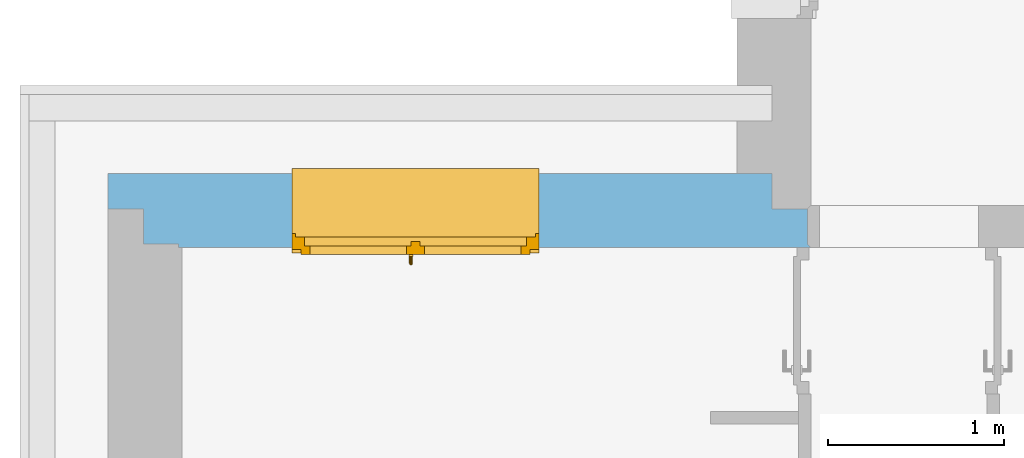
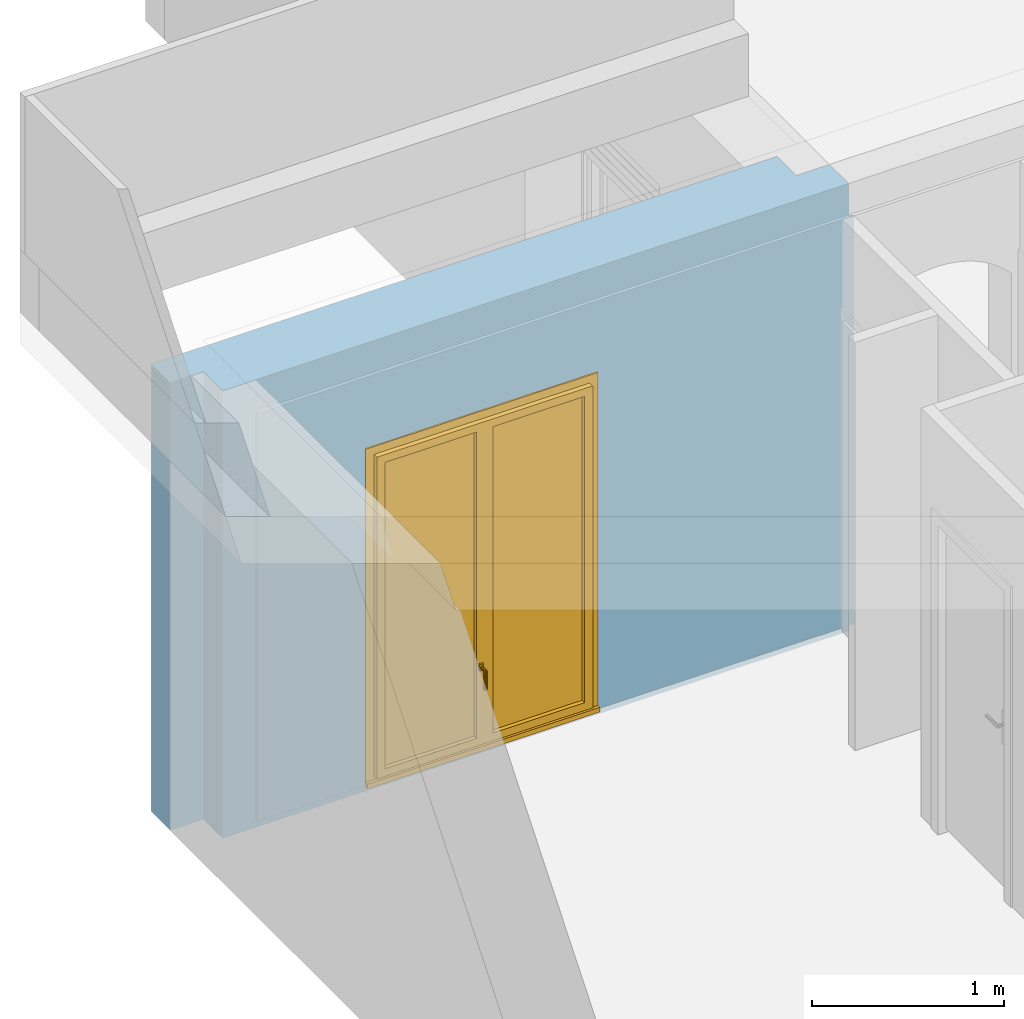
# One storey, part 8 of 16: 1 door, 1 opening, plus 1 element that does not belong to this part.
"""IFC4 building model written with IfcOpenShell, lengths in metres."""

from ifc_helpers import new_model, entity, si_unit, converted_unit, frame, origin, origin_with_axes, place, context, subcontext, project, spatial, polyline, outline, extrude, clip, bounded_halfspace, closed_shell, open_shell, surface_model, source, transform, mapped, material, layer, layer_set, layer_usage, type_object, element, fill, save


model = new_model("IFC4")

# Units and contexts
model_context = context("Model", 3, precision=1e-05, world=origin())
body_context = subcontext(model_context, "Body", "Model", "MODEL_VIEW")
ifc_project = project(units=[si_unit("LENGTHUNIT", "METRE"), si_unit("AREAUNIT", "SQUARE_METRE"), si_unit("VOLUMEUNIT", "CUBIC_METRE"), si_unit("MASSUNIT", "GRAM", prefix="KILO"), converted_unit("PLANEANGLEUNIT", "DEGREE", entity("IfcPlaneAngleMeasure", 0.0174532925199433), si_unit("PLANEANGLEUNIT", "RADIAN"), dimensions=[0, 0, 0, 0, 0, 0, 0])], contexts=[model_context])

# Building, storey
building_placement = place(None, origin())
building = spatial("IfcBuilding", under=ifc_project, at=building_placement, Name="Projet de Construction", CompositionType="ELEMENT")
storey_placement = place(building_placement, frame((0.0, 0.0, -0.05)))
storey = spatial("IfcBuildingStorey", under=building, at=storey_placement, Name="RDC", CompositionType="ELEMENT", Elevation=-0.05)

# Wall, opening, door
ifc_material_1 = material()
ifc_layer_1 = layer(ifc_material_1, 0.200000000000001)
ifc_material_2 = material()
ifc_layer_2 = layer(ifc_material_2, 0.2)
ifc_material_3 = material()
ifc_layer_3 = layer(ifc_material_3, 0.0199999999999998)
ifc_layer_set = layer_set([ifc_layer_1, ifc_layer_2, ifc_layer_3])
ifc_layer_usage = layer_usage(ifc_layer_set, "AXIS2", "POSITIVE", 0.0)
wall_placement = place(storey_placement, frame((-7.0859375, 1.89979166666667, 0.0), z_axis=(0.0, 0.0, 1.0), x_axis=(-1.0, 1.20622639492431e-16, 0.0)))
wall = element("IfcWall", 1, at=wall_placement, inside=storey, material=ifc_layer_usage, context=body_context, shape_type="Clipping", body=[
    clip(clip(extrude(outline(polyline([(-3.97, -0.220000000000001), (-3.77, -0.22), (-3.77, -0.420000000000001), (5.06615085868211e-17, -0.420000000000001), (2.65369806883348e-17, -0.22), (-0.2, -0.220000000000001), (-0.2, -0.0200000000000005), (-0.4, -0.0200000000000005), (-0.4, -5.02996406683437e-16), (-3.99, -4.81284331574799e-16), (-3.97, -0.0200000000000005), (-3.97, -0.220000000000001)])), frame((3.77, 0.420000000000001, 0.0), z_axis=(0.0, 0.0, 1.0), x_axis=(1.0, 0.0, 0.0)), (0.0, 0.0, 1.0), 2.85), bounded_halfspace(frame((1.58, 0.410000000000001, 0.05), z_axis=(0.0, 0.0, 1.0), x_axis=(0.707106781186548, -0.707106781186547, 0.0)), True, origin_with_axes(), polyline([(-0.22, 0.420000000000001), (-0.2, 0.400000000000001), (3.37, 0.400000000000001), (3.37, 0.420000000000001), (-0.22, 0.420000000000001)]))), bounded_halfspace(frame((1.58, 0.410000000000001, 2.65), z_axis=(0.0, 0.0, -1.0), x_axis=(1.0, -6.75757083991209e-18, 0.0)), True, origin_with_axes(), polyline([(-0.2, 0.400000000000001), (3.37, 0.400000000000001), (3.37, 0.420000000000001), (-0.22, 0.420000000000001), (-0.2, 0.400000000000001)]))),
])
opening_placement = place(wall_placement, frame((2.725, 0.200000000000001, 0.05), z_axis=(0.0, -1.0, 0.0), x_axis=(0.0, 0.0, 1.0)))
opening = element("IfcOpeningStandardCase", 2, at=opening_placement, cuts=wall, Name="Baie de porte", PredefinedType="OPENING", context=body_context, shape_type="SweptSolid", body=[
    extrude(outline(polyline([(0.0, 1.4), (2.15, 1.4), (2.15, 0.0), (0.0, 0.0), (0.0, 1.4)])), origin_with_axes(), (0.0, 0.0, 1.0), 0.200000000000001),
    extrude(outline(polyline([(0.0, 1.4), (2.15, 1.4), (2.15, 0.0), (0.0, 0.0), (0.0, 1.4)])), frame((0.0, 3.24819536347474e-17, -0.2), z_axis=(0.0, 0.0, 1.0), x_axis=(1.0, 0.0, 0.0)), (0.0, 0.0, 1.0), 0.2),
    extrude(outline(polyline([(0.0, 1.4), (2.15, 1.4), (2.15, 0.0), (0.0, 0.0), (0.0, 1.4)])), frame((0.0, 3.57301489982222e-17, -0.22), z_axis=(0.0, 0.0, 1.0), x_axis=(1.0, 0.0, 0.0)), (0.0, 0.0, 1.0), 0.02),
])
ifc_material_4 = material()
door_type = type_object("IfcDoorType", Name="3 vantaux blanc, monté", OperationType="NOTDEFINED", ParameterTakesPrecedence=False, PredefinedType="DOOR")
shared_shape = source(origin_with_axes(), body_context, "Body", "SurfaceModel", [
    surface_model("IfcShellBasedSurfaceModel", [(0.0, 0.0199999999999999, 0.03), (0.0, 0.39, 0.03), (-3.67394039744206e-18, 0.39, 0.06), (-2.44929359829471e-18, 0.0, 0.05), (3.67394039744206e-18, 0.0, 0.0), (3.67394039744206e-18, 0.0199999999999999, 0.0), (1.4, 0.39, 0.0300000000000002), (1.4, 0.0199999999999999, 0.0300000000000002), (1.4, 0.0199999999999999, 1.70530256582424e-16), (1.4, 0.0, 1.70530256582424e-16), (1.4, 0.0, 0.0500000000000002), (1.4, 0.39, 0.0600000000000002)], [closed_shell([[[0, 1, 2, 3, 4, 5]], [[6, 7, 8, 9, 10, 11]], [[1, 0, 7, 6]], [[2, 1, 6, 11]], [[3, 2, 11, 10]], [[4, 3, 10, 9]], [[5, 4, 9, 8]], [[0, 5, 8, 7]]], orient=[[False], [False], [False], [False], [False], [False], [False], [False]])]),
    surface_model("IfcShellBasedSurfaceModel", [(0.0, 0.48, 0.03), (-3.67394039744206e-18, 0.48, 0.06), (-3.67394039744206e-18, 0.43, 0.06), (0.0, 0.43, 0.03), (1.4, 0.43, 0.0300000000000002), (1.4, 0.43, 0.0600000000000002), (1.4, 0.48, 0.0600000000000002), (1.4, 0.48, 0.0300000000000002)], [closed_shell([[[0, 1, 2, 3]], [[4, 5, 6, 7]], [[3, 4, 7, 0]], [[2, 5, 4, 3]], [[1, 6, 5, 2]], [[0, 7, 6, 1]]], orient=[[False], [False], [False], [False], [False], [False]])]),
    surface_model("IfcShellBasedSurfaceModel", [(0.0, 0.39, 2.18), (0.0, 0.39, 1.98), (1.4, 0.39, 1.98), (1.4, 0.39, 2.18), (0.0, 0.19, 1.98), (0.0, 0.19, 2.18), (1.4, 0.19, 2.18), (1.4, 0.19, 1.98)], [closed_shell([[[0, 1, 2, 3]], [[4, 5, 6, 7]], [[1, 0, 5, 4]], [[2, 1, 4, 7]], [[3, 2, 7, 6]], [[0, 3, 6, 5]]], orient=[[False], [False], [False], [False], [False], [False]])]),
    surface_model("IfcShellBasedSurfaceModel", [(0.0, 0.39, 1.98), (0.0, 0.39, 0.03), (0.02, 0.39, 0.03), (0.02, 0.39, 1.98), (0.0, 0.37, 0.03), (0.0, 0.37, 1.98), (0.02, 0.37, 1.98), (0.02, 0.37, 0.03)], [closed_shell([[[0, 1, 2, 3]], [[4, 5, 6, 7]], [[1, 0, 5, 4]], [[2, 1, 4, 7]], [[3, 2, 7, 6]], [[0, 3, 6, 5]]], orient=[[False], [False], [False], [False], [False], [False]])]),
    surface_model("IfcShellBasedSurfaceModel", [(1.38, 0.39, 1.98), (1.38, 0.39, 0.03), (1.4, 0.39, 0.03), (1.4, 0.39, 1.98), (1.38, 0.37, 0.03), (1.38, 0.37, 1.98), (1.4, 0.37, 1.98), (1.4, 0.37, 0.03)], [closed_shell([[[0, 1, 2, 3]], [[4, 5, 6, 7]], [[1, 0, 5, 4]], [[2, 1, 4, 7]], [[3, 2, 7, 6]], [[0, 3, 6, 5]]], orient=[[False], [False], [False], [False], [False], [False]])]),
    surface_model("IfcShellBasedSurfaceModel", [(0.01, 0.385, 1.975), (0.01, 0.385, 1.925), (1.39, 0.385, 1.925), (1.39, 0.385, 1.975), (0.01, 0.375, 1.925), (0.01, 0.375, 1.975), (1.39, 0.375, 1.975), (1.39, 0.375, 1.925)], [closed_shell([[[0, 1, 2, 3]], [[4, 5, 6, 7]], [[1, 0, 5, 4]], [[2, 1, 4, 7]], [[3, 2, 7, 6]], [[0, 3, 6, 5]]], orient=[[False], [False], [False], [False], [False], [False]])]),
    surface_model("IfcShellBasedSurfaceModel", [(0.01, 0.385, 1.92), (0.01, 0.385, 1.87), (1.39, 0.385, 1.87), (1.39, 0.385, 1.92), (0.01, 0.375, 1.87), (0.01, 0.375, 1.92), (1.39, 0.375, 1.92), (1.39, 0.375, 1.87)], [closed_shell([[[0, 1, 2, 3]], [[4, 5, 6, 7]], [[1, 0, 5, 4]], [[2, 1, 4, 7]], [[3, 2, 7, 6]], [[0, 3, 6, 5]]], orient=[[False], [False], [False], [False], [False], [False]])]),
    surface_model("IfcShellBasedSurfaceModel", [(0.01, 0.385, 1.865), (0.01, 0.385, 1.815), (1.39, 0.385, 1.815), (1.39, 0.385, 1.865), (0.01, 0.375, 1.815), (0.01, 0.375, 1.865), (1.39, 0.375, 1.865), (1.39, 0.375, 1.815)], [closed_shell([[[0, 1, 2, 3]], [[4, 5, 6, 7]], [[1, 0, 5, 4]], [[2, 1, 4, 7]], [[3, 2, 7, 6]], [[0, 3, 6, 5]]], orient=[[False], [False], [False], [False], [False], [False]])]),
    surface_model("IfcShellBasedSurfaceModel", [(0.01, 0.385, 1.81), (0.01, 0.385, 1.76), (1.39, 0.385, 1.76), (1.39, 0.385, 1.81), (0.01, 0.375, 1.76), (0.01, 0.375, 1.81), (1.39, 0.375, 1.81), (1.39, 0.375, 1.76)], [closed_shell([[[0, 1, 2, 3]], [[4, 5, 6, 7]], [[1, 0, 5, 4]], [[2, 1, 4, 7]], [[3, 2, 7, 6]], [[0, 3, 6, 5]]], orient=[[False], [False], [False], [False], [False], [False]])]),
    surface_model("IfcShellBasedSurfaceModel", [(0.01, 0.385, 1.755), (0.01, 0.385, 1.705), (1.39, 0.385, 1.705), (1.39, 0.385, 1.755), (0.01, 0.375, 1.705), (0.01, 0.375, 1.755), (1.39, 0.375, 1.755), (1.39, 0.375, 1.705)], [closed_shell([[[0, 1, 2, 3]], [[4, 5, 6, 7]], [[1, 0, 5, 4]], [[2, 1, 4, 7]], [[3, 2, 7, 6]], [[0, 3, 6, 5]]], orient=[[False], [False], [False], [False], [False], [False]])]),
    surface_model("IfcShellBasedSurfaceModel", [(0.01, 0.385, 1.7), (0.01, 0.385, 1.65), (1.39, 0.385, 1.65), (1.39, 0.385, 1.7), (0.01, 0.375, 1.65), (0.01, 0.375, 1.7), (1.39, 0.375, 1.7), (1.39, 0.375, 1.65)], [closed_shell([[[0, 1, 2, 3]], [[4, 5, 6, 7]], [[1, 0, 5, 4]], [[2, 1, 4, 7]], [[3, 2, 7, 6]], [[0, 3, 6, 5]]], orient=[[False], [False], [False], [False], [False], [False]])]),
    surface_model("IfcShellBasedSurfaceModel", [(0.01, 0.385, 1.645), (0.01, 0.385, 1.595), (1.39, 0.385, 1.595), (1.39, 0.385, 1.645), (0.01, 0.375, 1.595), (0.01, 0.375, 1.645), (1.39, 0.375, 1.645), (1.39, 0.375, 1.595)], [closed_shell([[[0, 1, 2, 3]], [[4, 5, 6, 7]], [[1, 0, 5, 4]], [[2, 1, 4, 7]], [[3, 2, 7, 6]], [[0, 3, 6, 5]]], orient=[[False], [False], [False], [False], [False], [False]])]),
    surface_model("IfcShellBasedSurfaceModel", [(0.01, 0.385, 1.59), (0.01, 0.385, 1.54), (1.39, 0.385, 1.54), (1.39, 0.385, 1.59), (0.01, 0.375, 1.54), (0.01, 0.375, 1.59), (1.39, 0.375, 1.59), (1.39, 0.375, 1.54)], [closed_shell([[[0, 1, 2, 3]], [[4, 5, 6, 7]], [[1, 0, 5, 4]], [[2, 1, 4, 7]], [[3, 2, 7, 6]], [[0, 3, 6, 5]]], orient=[[False], [False], [False], [False], [False], [False]])]),
    surface_model("IfcShellBasedSurfaceModel", [(0.01, 0.385, 1.535), (0.01, 0.385, 1.485), (1.39, 0.385, 1.485), (1.39, 0.385, 1.535), (0.01, 0.375, 1.485), (0.01, 0.375, 1.535), (1.39, 0.375, 1.535), (1.39, 0.375, 1.485)], [closed_shell([[[0, 1, 2, 3]], [[4, 5, 6, 7]], [[1, 0, 5, 4]], [[2, 1, 4, 7]], [[3, 2, 7, 6]], [[0, 3, 6, 5]]], orient=[[False], [False], [False], [False], [False], [False]])]),
    surface_model("IfcShellBasedSurfaceModel", [(0.01, 0.385, 1.48), (0.01, 0.385, 1.43), (1.39, 0.385, 1.43), (1.39, 0.385, 1.48), (0.01, 0.375, 1.43), (0.01, 0.375, 1.48), (1.39, 0.375, 1.48), (1.39, 0.375, 1.43)], [closed_shell([[[0, 1, 2, 3]], [[4, 5, 6, 7]], [[1, 0, 5, 4]], [[2, 1, 4, 7]], [[3, 2, 7, 6]], [[0, 3, 6, 5]]], orient=[[False], [False], [False], [False], [False], [False]])]),
    surface_model("IfcShellBasedSurfaceModel", [(0.0, 0.46, 2.18), (0.0, 0.46, 0.03), (0.07, 0.46, 0.03), (0.07, 0.46, 2.18), (0.0, 0.39, 0.03), (0.0, 0.39, 2.18), (0.07, 0.39, 2.18), (0.07, 0.39, 0.03)], [closed_shell([[[0, 1, 2, 3]], [[4, 5, 6, 7]], [[1, 0, 5, 4]], [[2, 1, 4, 7]], [[3, 2, 7, 6]], [[0, 3, 6, 5]]], orient=[[False], [False], [False], [False], [False], [False]])]),
    surface_model("IfcShellBasedSurfaceModel", [(1.33, 0.46, 2.18), (1.33, 0.46, 0.03), (1.4, 0.46, 0.03), (1.4, 0.46, 2.18), (1.33, 0.39, 0.03), (1.33, 0.39, 2.18), (1.4, 0.39, 2.18), (1.4, 0.39, 0.03)], [closed_shell([[[0, 1, 2, 3]], [[4, 5, 6, 7]], [[1, 0, 5, 4]], [[2, 1, 4, 7]], [[3, 2, 7, 6]], [[0, 3, 6, 5]]], orient=[[False], [False], [False], [False], [False], [False]])]),
    surface_model("IfcShellBasedSurfaceModel", [(0.07, 0.46, 0.1), (0.07, 0.46, 0.03), (1.33, 0.46, 0.03), (1.33, 0.46, 0.1), (0.07, 0.39, 0.03), (0.07, 0.39, 0.1), (1.33, 0.39, 0.1), (1.33, 0.39, 0.03)], [closed_shell([[[0, 1, 2, 3]], [[4, 5, 6, 7]], [[1, 0, 5, 4]], [[2, 1, 4, 7]], [[3, 2, 7, 6]], [[0, 3, 6, 5]]], orient=[[False], [False], [False], [False], [False], [False]])]),
    surface_model("IfcShellBasedSurfaceModel", [(0.07, 0.46, 2.18), (0.07, 0.46, 2.11), (1.33, 0.46, 2.11), (1.33, 0.46, 2.18), (0.07, 0.39, 2.11), (0.07, 0.39, 2.18), (1.33, 0.39, 2.18), (1.33, 0.39, 2.11)], [closed_shell([[[0, 1, 2, 3]], [[4, 5, 6, 7]], [[1, 0, 5, 4]], [[2, 1, 4, 7]], [[3, 2, 7, 6]], [[0, 3, 6, 5]]], orient=[[False], [False], [False], [False], [False], [False]])]),
    surface_model("IfcShellBasedSurfaceModel", [(0.05, 0.49, 2.13), (0.05, 0.49, 0.08), (0.1, 0.49, 0.08), (0.1, 0.49, 2.13), (0.05, 0.44, 0.08), (0.05, 0.44, 2.13), (0.1, 0.44, 2.13), (0.1, 0.44, 0.08)], [closed_shell([[[0, 1, 2, 3]], [[4, 5, 6, 7]], [[1, 0, 5, 4]], [[2, 1, 4, 7]], [[3, 2, 7, 6]], [[0, 3, 6, 5]]], orient=[[False], [False], [False], [False], [False], [False]])]),
    surface_model("IfcShellBasedSurfaceModel", [(0.6495, 0.49, 2.13), (0.6495, 0.49, 0.08), (0.6995, 0.49, 0.08), (0.6995, 0.49, 2.13), (0.6495, 0.44, 0.08), (0.6495, 0.44, 2.13), (0.6995, 0.44, 2.13), (0.6995, 0.44, 0.08)], [closed_shell([[[0, 1, 2, 3]], [[4, 5, 6, 7]], [[1, 0, 5, 4]], [[2, 1, 4, 7]], [[3, 2, 7, 6]], [[0, 3, 6, 5]]], orient=[[False], [False], [False], [False], [False], [False]])]),
    surface_model("IfcShellBasedSurfaceModel", [(0.1, 0.49, 0.13), (0.1, 0.49, 0.08), (0.6495, 0.49, 0.08), (0.6495, 0.49, 0.13), (0.1, 0.44, 0.08), (0.1, 0.44, 0.13), (0.6495, 0.44, 0.13), (0.6495, 0.44, 0.08)], [closed_shell([[[0, 1, 2, 3]], [[4, 5, 6, 7]], [[1, 0, 5, 4]], [[2, 1, 4, 7]], [[3, 2, 7, 6]], [[0, 3, 6, 5]]], orient=[[False], [False], [False], [False], [False], [False]])]),
    surface_model("IfcShellBasedSurfaceModel", [(0.1, 0.49, 2.13), (0.1, 0.49, 2.08), (0.6495, 0.49, 2.08), (0.6495, 0.49, 2.13), (0.1, 0.44, 2.08), (0.1, 0.44, 2.13), (0.6495, 0.44, 2.13), (0.6495, 0.44, 2.08)], [closed_shell([[[0, 1, 2, 3]], [[4, 5, 6, 7]], [[1, 0, 5, 4]], [[2, 1, 4, 7]], [[3, 2, 7, 6]], [[0, 3, 6, 5]]], orient=[[False], [False], [False], [False], [False], [False]])]),
    surface_model("IfcShellBasedSurfaceModel", [(0.6745, 0.44, 2.11), (0.6745, 0.44, 0.1), (0.7245, 0.44, 0.1), (0.7245, 0.44, 2.11), (0.6745, 0.415, 0.1), (0.6745, 0.415, 2.11), (0.7245, 0.415, 2.11), (0.7245, 0.415, 0.1)], [closed_shell([[[0, 1, 2, 3]], [[4, 5, 6, 7]], [[1, 0, 5, 4]], [[2, 1, 4, 7]], [[3, 2, 7, 6]], [[0, 3, 6, 5]]], orient=[[False], [False], [False], [False], [False], [False]])]),
    surface_model("IfcShellBasedSurfaceModel", [(0.662, 0.49, 0.6), (0.687, 0.49, 0.6), (0.687, 0.49, 0.56), (0.662, 0.49, 0.56), (0.662, 0.5, 0.56), (0.687, 0.5, 0.56), (0.687, 0.5, 0.6), (0.662, 0.5, 0.6)], [closed_shell([[[0, 1, 2, 3]], [[4, 5, 6, 7]], [[3, 4, 7, 0]], [[2, 5, 4, 3]], [[1, 6, 5, 2]], [[0, 7, 6, 1]]], orient=[[False], [False], [False], [False], [False], [False]])]),
    surface_model("IfcShellBasedSurfaceModel", [(0.6845, 0.5, 0.58), (0.683160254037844, 0.5, 0.575), (0.6795, 0.5, 0.571339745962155), (0.6745, 0.5, 0.57), (0.6695, 0.5, 0.571339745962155), (0.665839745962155, 0.5, 0.575), (0.6645, 0.5, 0.58), (0.665839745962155, 0.5, 0.585), (0.6695, 0.5, 0.588660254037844), (0.6745, 0.5, 0.59), (0.6795, 0.5, 0.588660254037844), (0.683160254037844, 0.5, 0.585), (0.683160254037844, 0.545, 0.585), (0.6845, 0.54, 0.58), (0.6795, 0.548660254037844, 0.588660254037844), (0.6745, 0.55, 0.59), (0.6695, 0.548660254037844, 0.588660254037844), (0.665839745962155, 0.545, 0.585), (0.6645, 0.54, 0.58), (0.665839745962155, 0.535, 0.575), (0.6695, 0.531339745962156, 0.571339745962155), (0.6745, 0.53, 0.57), (0.6795, 0.531339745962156, 0.571339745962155), (0.683160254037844, 0.535, 0.575), (0.6845, 0.54, 0.465), (0.683160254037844, 0.545, 0.465), (0.6795, 0.548660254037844, 0.465), (0.6745, 0.55, 0.465), (0.6695, 0.548660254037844, 0.465), (0.665839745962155, 0.545, 0.465), (0.6645, 0.54, 0.465), (0.665839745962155, 0.535, 0.465), (0.6695, 0.531339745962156, 0.465), (0.6745, 0.53, 0.465), (0.6795, 0.531339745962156, 0.465), (0.683160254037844, 0.535, 0.465)], [closed_shell([[[0, 1, 2, 3, 4, 5, 6, 7, 8, 9, 10, 11]], [[0, 11, 12, 13]], [[11, 10, 14, 12]], [[10, 9, 15, 14]], [[9, 8, 16, 15]], [[8, 7, 17, 16]], [[7, 6, 18, 17]], [[6, 5, 19, 18]], [[5, 4, 20, 19]], [[4, 3, 21, 20]], [[3, 2, 22, 21]], [[2, 1, 23, 22]], [[1, 0, 13, 23]], [[24, 25, 26, 27, 28, 29, 30, 31, 32, 33, 34, 35]], [[13, 12, 25, 24]], [[12, 14, 26, 25]], [[14, 15, 27, 26]], [[15, 16, 28, 27]], [[16, 17, 29, 28]], [[17, 18, 30, 29]], [[18, 19, 31, 30]], [[19, 20, 32, 31]], [[20, 21, 33, 32]], [[21, 22, 34, 33]], [[22, 23, 35, 34]], [[23, 13, 24, 35]]], orient=[[False], [False], [False], [False], [False], [False], [False], [False], [False], [False], [False], [False], [False], [False], [False], [False], [False], [False], [False], [False], [False], [False], [False], [False], [False], [False]])]),
    surface_model("IfcShellBasedSurfaceModel", [(0.7005, 0.49, 2.13), (0.7005, 0.49, 0.08), (0.7505, 0.49, 0.08), (0.7505, 0.49, 2.13), (0.7005, 0.44, 0.08), (0.7005, 0.44, 2.13), (0.7505, 0.44, 2.13), (0.7505, 0.44, 0.08)], [closed_shell([[[0, 1, 2, 3]], [[4, 5, 6, 7]], [[1, 0, 5, 4]], [[2, 1, 4, 7]], [[3, 2, 7, 6]], [[0, 3, 6, 5]]], orient=[[False], [False], [False], [False], [False], [False]])]),
    surface_model("IfcShellBasedSurfaceModel", [(1.3, 0.49, 2.13), (1.3, 0.49, 0.08), (1.35, 0.49, 0.08), (1.35, 0.49, 2.13), (1.3, 0.44, 0.08), (1.3, 0.44, 2.13), (1.35, 0.44, 2.13), (1.35, 0.44, 0.08)], [closed_shell([[[0, 1, 2, 3]], [[4, 5, 6, 7]], [[1, 0, 5, 4]], [[2, 1, 4, 7]], [[3, 2, 7, 6]], [[0, 3, 6, 5]]], orient=[[False], [False], [False], [False], [False], [False]])]),
    surface_model("IfcShellBasedSurfaceModel", [(0.7505, 0.49, 0.13), (0.7505, 0.49, 0.08), (1.3, 0.49, 0.08), (1.3, 0.49, 0.13), (0.7505, 0.44, 0.08), (0.7505, 0.44, 0.13), (1.3, 0.44, 0.13), (1.3, 0.44, 0.08)], [closed_shell([[[0, 1, 2, 3]], [[4, 5, 6, 7]], [[1, 0, 5, 4]], [[2, 1, 4, 7]], [[3, 2, 7, 6]], [[0, 3, 6, 5]]], orient=[[False], [False], [False], [False], [False], [False]])]),
    surface_model("IfcShellBasedSurfaceModel", [(0.7505, 0.49, 2.13), (0.7505, 0.49, 2.08), (1.3, 0.49, 2.08), (1.3, 0.49, 2.13), (0.7505, 0.44, 2.08), (0.7505, 0.44, 2.13), (1.3, 0.44, 2.13), (1.3, 0.44, 2.08)], [closed_shell([[[0, 1, 2, 3]], [[4, 5, 6, 7]], [[1, 0, 5, 4]], [[2, 1, 4, 7]], [[3, 2, 7, 6]], [[0, 3, 6, 5]]], orient=[[False], [False], [False], [False], [False], [False]])]),
    surface_model("IfcShellBasedSurfaceModel", [(0.1, 0.465, 0.13), (0.6495, 0.465, 0.13), (0.6495, 0.465, 2.08), (0.1, 0.465, 2.08)], [open_shell([[[0, 1, 2, 3]]], orient=[[False]])]),
    surface_model("IfcShellBasedSurfaceModel", [(0.7505, 0.465, 0.13), (1.3, 0.465, 0.13), (1.3, 0.465, 2.08), (0.7505, 0.465, 2.08)], [open_shell([[[0, 1, 2, 3]]], orient=[[False]])]),
])
door_placement = place(opening_placement, frame((-0.03, 0.0, 0.229999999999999), z_axis=(1.0, 0.0, 0.0), x_axis=(0.0, 1.0, -1.84204042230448e-18)))
door = element("IfcDoor", 3, at=door_placement, inside=storey, type_object=door_type, material=ifc_material_4, Name="3 vantaux blanc, monté", OverallHeight=2.15, OverallWidth=1.4, context=body_context, shape_type="MappedRepresentation", body=[
    mapped(shared_shape, transform((0.0, 0.0, 0.0), x_axis=(1.0, 0.0, 0.0), y_axis=(0.0, -1.0, 0.0), z_axis=(0.0, 0.0, 1.0), scale=1.0)),
])
fill(opening, door)

save(model, "model.ifc")
